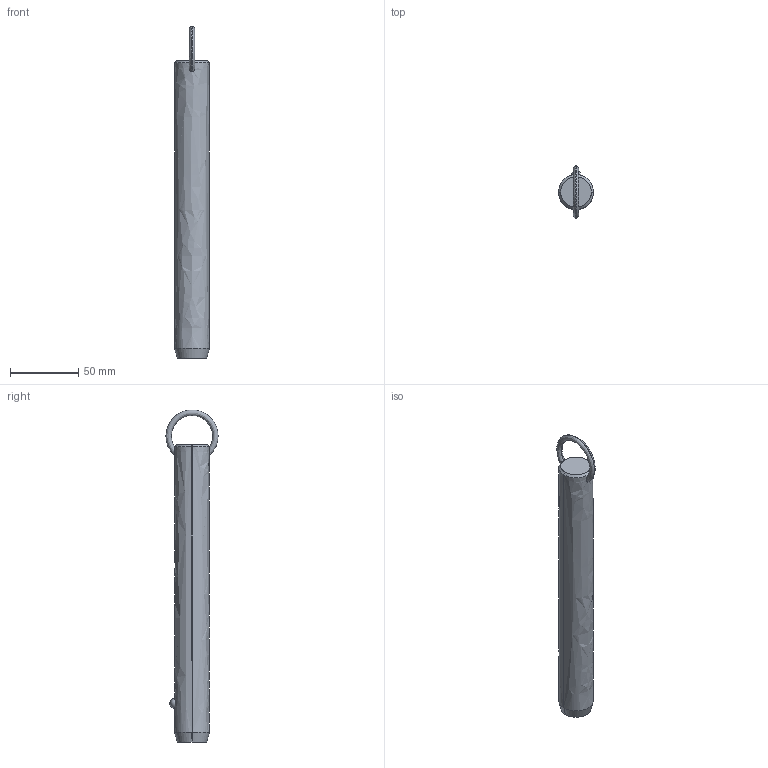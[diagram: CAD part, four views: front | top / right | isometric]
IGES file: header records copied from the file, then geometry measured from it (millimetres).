
Start section: SolidWorks IGES file using analytic representation for surfaces
Global section: file name: C:\Users\liam_\OneDrive\Documents\WORK\Work for WixRoyd\Job Files\J-00019 - Matt Davis CAD Checking\04. CAD Drawings\automotion20190605\P1250.2_v2\P1250.2_v2_20190729_IGES\P1250.100-680.igs; native system: SolidWorks 2017; preprocessor: SolidWorks 2017; author: liam_; date: 190730.174813; units: millimetre
Bounding box: 25.4 x 38.1 x 242.6 mm (x, y, z)
Surface area: 19105.1 mm2 (no closed solid volume)
Topology: 0 solids, 0 shells, 12 faces, 298 edges, 296 vertices
Faces by surface type: revolution 8, bspline 4
